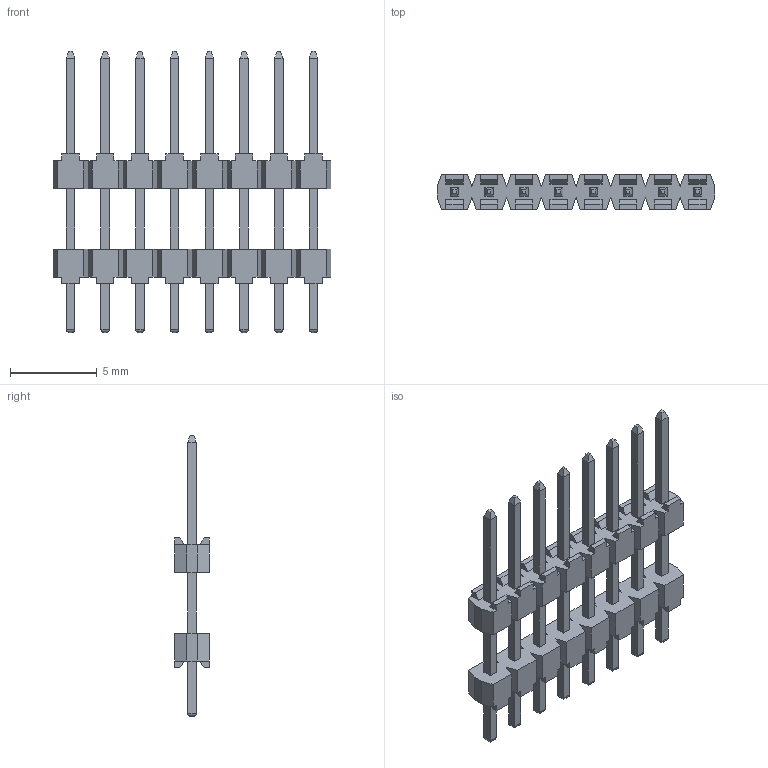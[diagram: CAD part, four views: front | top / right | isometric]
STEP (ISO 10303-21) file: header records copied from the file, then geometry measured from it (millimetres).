
FILE_DESCRIPTION(/* description */ (''),/* implementation_level */ '2;1');
FILE_NAME(/* name */ '951408-9061506-AR',/* time_stamp */ '2007-03-14T14:57:22+01:00',/* author */ (''),/* organization */ (''),/* preprocessor_version */ 'ST-DEVELOPER v9',/* originating_system */ 'UGS - NX 4.0',/* authorisation */ '');
FILE_SCHEMA (('AUTOMOTIVE_DESIGN { 1 0 10303 214 1 1 1 1 }'));
Length unit declared in the file: millimetre
Products named in the file (1): 951408-9061506-AR
Bounding box: 16 x 2 x 16.2 mm (x, y, z)
Volume: 124.4 mm3; surface area: 503.5 mm2
Topology: 1 solids, 1 shells, 408 faces, 1100 edges, 712 vertices
Faces by surface type: plane 376, cylinder 32
Entity records: 12516 total; most frequent: CARTESIAN_POINT 2221, ORIENTED_EDGE 2200, DIRECTION 1950, EDGE_CURVE 1100, LINE 1068, VECTOR 1068, VERTEX_POINT 712, AXIS2_PLACEMENT_3D 441
